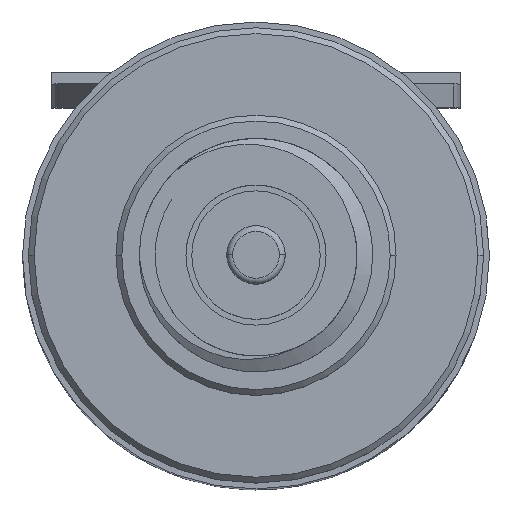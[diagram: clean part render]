
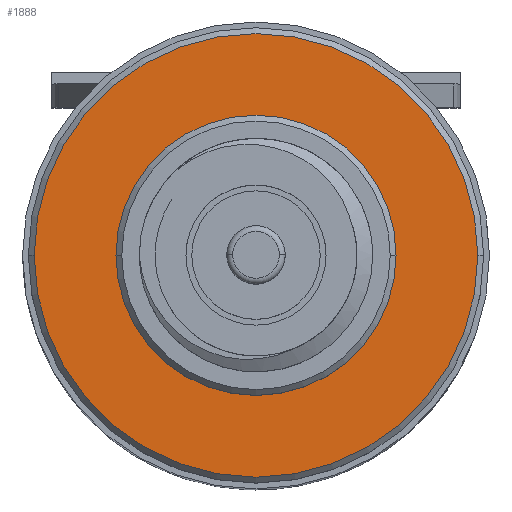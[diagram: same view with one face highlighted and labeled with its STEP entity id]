
A CAD part, top view. The second image highlights one B-rep face of the part: STEP entity #1888.
In plain terms, the highlighted planar face has unit normal (0, 0, 1).
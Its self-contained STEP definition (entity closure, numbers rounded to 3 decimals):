
#81 = EDGE_CURVE ( 'NONE', #400, #1322, #2326, .T. ) ;
#157 = AXIS2_PLACEMENT_3D ( 'NONE', #991, #1996, #444 ) ;
#246 = CARTESIAN_POINT ( 'NONE',  ( 1.2, 0., 8.3 ) ) ;
#321 = CARTESIAN_POINT ( 'NONE',  ( 1.9, 0., 8.3 ) ) ;
#400 = VERTEX_POINT ( 'NONE', #246 ) ;
#444 = DIRECTION ( 'NONE',  ( 1., 0., 0. ) ) ;
#488 = CARTESIAN_POINT ( 'NONE',  ( 0., 0., 8.3 ) ) ;
#535 = ORIENTED_EDGE ( 'NONE', *, *, #81, .F. ) ;
#678 = ORIENTED_EDGE ( 'NONE', *, *, #1985, .F. ) ;
#696 = DIRECTION ( 'NONE',  ( 1., 0., 0. ) ) ;
#727 = CARTESIAN_POINT ( 'NONE',  ( -1.2, 0., 8.3 ) ) ;
#779 = ORIENTED_EDGE ( 'NONE', *, *, #2745, .T. ) ;
#796 = AXIS2_PLACEMENT_3D ( 'NONE', #2844, #799, #1326 ) ;
#799 = DIRECTION ( 'NONE',  ( 0., 0., 1. ) ) ;
#944 = ORIENTED_EDGE ( 'NONE', *, *, #1703, .T. ) ;
#946 = FACE_BOUND ( 'NONE', #1153, .T. ) ;
#991 = CARTESIAN_POINT ( 'NONE',  ( 0., 0., 8.3 ) ) ;
#1014 = CIRCLE ( 'NONE', #796, 1.9 ) ;
#1082 = CIRCLE ( 'NONE', #2926, 1.9 ) ;
#1153 = EDGE_LOOP ( 'NONE', ( #678, #535 ) ) ;
#1219 = PLANE ( 'NONE',  #1654 ) ;
#1270 = DIRECTION ( 'NONE',  ( 1., 0., 0. ) ) ;
#1322 = VERTEX_POINT ( 'NONE', #727 ) ;
#1326 = DIRECTION ( 'NONE',  ( 1., 0., 0. ) ) ;
#1491 = DIRECTION ( 'NONE',  ( 0., 0., 1. ) ) ;
#1580 = VERTEX_POINT ( 'NONE', #321 ) ;
#1654 = AXIS2_PLACEMENT_3D ( 'NONE', #2216, #2535, #2736 ) ;
#1703 = EDGE_CURVE ( 'NONE', #2792, #1580, #1014, .T. ) ;
#1739 = CARTESIAN_POINT ( 'NONE',  ( 0., 0., 8.3 ) ) ;
#1809 = AXIS2_PLACEMENT_3D ( 'NONE', #488, #1491, #1270 ) ;
#1888 = ADVANCED_FACE ( 'NONE', ( #3016, #946 ), #1219, .T. ) ;
#1985 = EDGE_CURVE ( 'NONE', #1322, #400, #2973, .T. ) ;
#1996 = DIRECTION ( 'NONE',  ( 0., 0., 1. ) ) ;
#2216 = CARTESIAN_POINT ( 'NONE',  ( 0., 0., 8.3 ) ) ;
#2264 = DIRECTION ( 'NONE',  ( 0., 0., 1. ) ) ;
#2326 = CIRCLE ( 'NONE', #157, 1.2 ) ;
#2535 = DIRECTION ( 'NONE',  ( 0., 0., 1. ) ) ;
#2736 = DIRECTION ( 'NONE',  ( 1., 0., 0. ) ) ;
#2745 = EDGE_CURVE ( 'NONE', #1580, #2792, #1082, .T. ) ;
#2792 = VERTEX_POINT ( 'NONE', #3243 ) ;
#2844 = CARTESIAN_POINT ( 'NONE',  ( 0., 0., 8.3 ) ) ;
#2926 = AXIS2_PLACEMENT_3D ( 'NONE', #1739, #2264, #696 ) ;
#2973 = CIRCLE ( 'NONE', #1809, 1.2 ) ;
#3016 = FACE_OUTER_BOUND ( 'NONE', #3164, .T. ) ;
#3164 = EDGE_LOOP ( 'NONE', ( #944, #779 ) ) ;
#3243 = CARTESIAN_POINT ( 'NONE',  ( -1.9, 0., 8.3 ) ) ;
